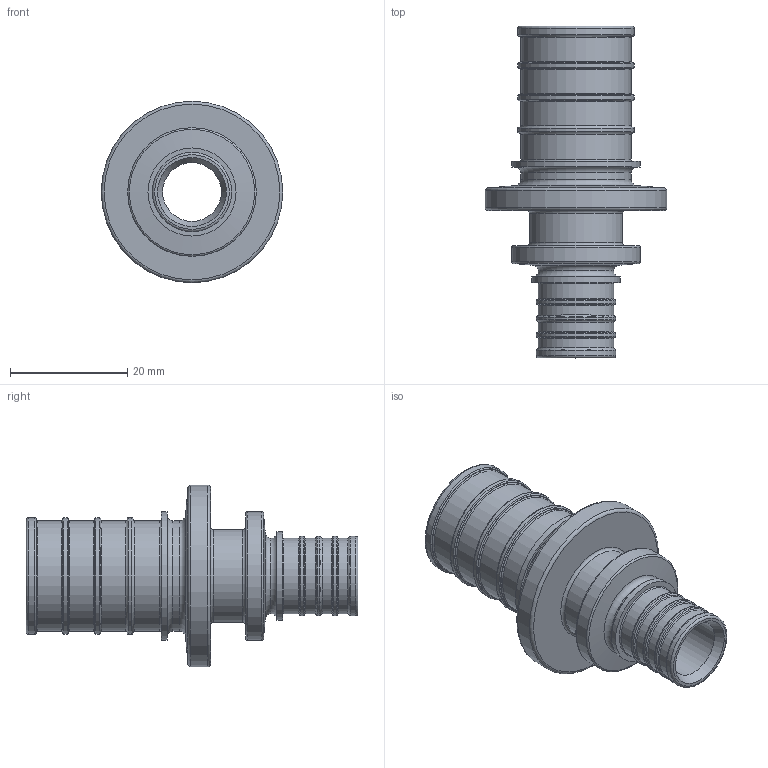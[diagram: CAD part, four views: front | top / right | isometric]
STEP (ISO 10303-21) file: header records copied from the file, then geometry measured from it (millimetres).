
FILE_DESCRIPTION(('STEP AP203'), '1');
FILE_NAME('ÂÐ.714651.003 - VTm.403.G.002516 Ôèò. íàäâ. ïð', '2024-01-23T11:04:47', ('IT'), ('VESTA'), 'C3D Converter', 'C3D Toolkit', '');
FILE_SCHEMA(('CONFIG_CONTROL_DESIGN'));
Length unit declared in the file: millimetre
Products named in the file (1): ВР.714651.003
Bounding box: 30.9 x 56.5 x 30.9 mm (x, y, z)
Volume: 8058.8 mm3; surface area: 7325 mm2
Topology: 1 solids, 1 shells, 86 faces, 157 edges, 86 vertices
Faces by surface type: torus 42, cylinder 24, plane 15, cone 5
Full cylindrical faces by diameter (mm): 10 x1, 12.8 x4, 13.5 x4, 15 x2, 15.8 x1, 18.8 x5, 19.8 x4, 21.8 x1, 21.9 x1, 30.9 x1
Entity records: 1759 total; most frequent: DIRECTION 346, CARTESIAN_POINT 259, AXIS2_PLACEMENT_3D 173, EDGE_LOOP 172, ORIENTED_EDGE 172, FACE_OUTER_BOUND 142, ADVANCED_FACE 86, EDGE_CURVE 86
